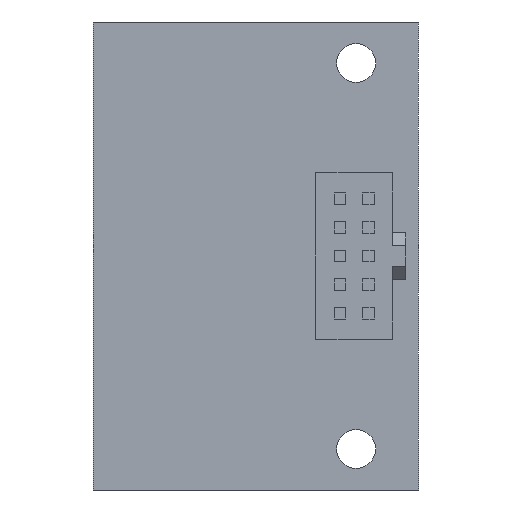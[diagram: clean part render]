
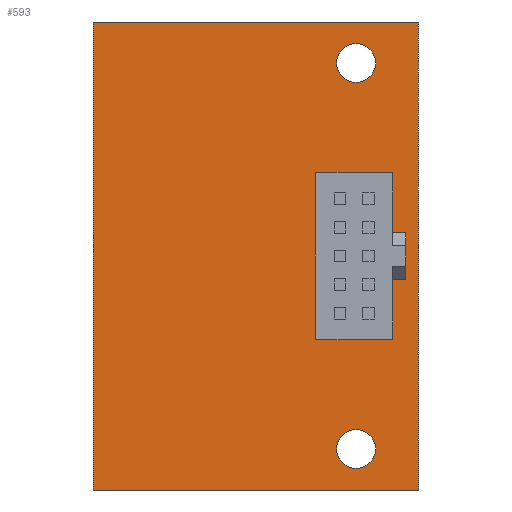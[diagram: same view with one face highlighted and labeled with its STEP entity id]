
A CAD part, left-side view. The second image highlights one B-rep face of the part: STEP entity #593.
In plain terms, the highlighted planar face has unit normal (-1, 0, 0).
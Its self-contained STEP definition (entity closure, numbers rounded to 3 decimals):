
#593=ADVANCED_FACE('',(#1348,#1350,#1352,#1354),#1356,.F.);
#1348=FACE_BOUND('',#1349,.T.);
#1349=EDGE_LOOP('',(#1899,#1900,#1901,#1902));
#1350=FACE_BOUND('',#1351,.T.);
#1351=EDGE_LOOP('',(#1903,#1904,#1905,#1906,#1907,#1908,#1909,#1910));
#1352=FACE_BOUND('',#1353,.T.);
#1353=EDGE_LOOP('',(#1911));
#1354=FACE_BOUND('',#1355,.T.);
#1355=EDGE_LOOP('',(#1912));
#1356=PLANE('',#1357);
#1357=AXIS2_PLACEMENT_3D('',#1358,#1359,#1360);
#1358=CARTESIAN_POINT('',(0.,0.,0.));
#1359=DIRECTION('',(1.,0.,0.));
#1360=DIRECTION('',(0.,1.,0.));
#1899=ORIENTED_EDGE('',*,*,#2236,.F.);
#1900=ORIENTED_EDGE('',*,*,#2237,.F.);
#1901=ORIENTED_EDGE('',*,*,#2238,.F.);
#1902=ORIENTED_EDGE('',*,*,#2239,.F.);
#1903=ORIENTED_EDGE('',*,*,#2227,.F.);
#1904=ORIENTED_EDGE('',*,*,#2225,.F.);
#1905=ORIENTED_EDGE('',*,*,#2240,.F.);
#1906=ORIENTED_EDGE('',*,*,#2219,.F.);
#1907=ORIENTED_EDGE('',*,*,#2235,.F.);
#1908=ORIENTED_EDGE('',*,*,#2233,.F.);
#1909=ORIENTED_EDGE('',*,*,#2231,.F.);
#1910=ORIENTED_EDGE('',*,*,#2229,.F.);
#1911=ORIENTED_EDGE('',*,*,#2241,.T.);
#1912=ORIENTED_EDGE('',*,*,#2242,.T.);
#2219=EDGE_CURVE('',#2546,#2548,#2549,.F.);
#2225=EDGE_CURVE('',#2556,#2558,#2559,.F.);
#2227=EDGE_CURVE('',#2558,#2561,#2562,.F.);
#2229=EDGE_CURVE('',#2561,#2564,#2565,.F.);
#2231=EDGE_CURVE('',#2564,#2567,#2568,.F.);
#2233=EDGE_CURVE('',#2567,#2570,#2571,.F.);
#2235=EDGE_CURVE('',#2570,#2546,#2573,.F.);
#2236=EDGE_CURVE('',#2574,#2575,#2576,.T.);
#2237=EDGE_CURVE('',#2577,#2574,#2578,.T.);
#2238=EDGE_CURVE('',#2579,#2577,#2580,.T.);
#2239=EDGE_CURVE('',#2575,#2579,#2581,.T.);
#2240=EDGE_CURVE('',#2548,#2556,#2582,.F.);
#2241=EDGE_CURVE('',#2583,#2583,#2584,.T.);
#2242=EDGE_CURVE('',#2585,#2585,#2586,.T.);
#2546=VERTEX_POINT('',#3206);
#2548=VERTEX_POINT('',#3210);
#2549=LINE('',#3211,#3212);
#2556=VERTEX_POINT('',#3228);
#2558=VERTEX_POINT('',#3232);
#2559=LINE('',#3233,#3234);
#2561=VERTEX_POINT('',#3239);
#2562=LINE('',#3240,#3241);
#2564=VERTEX_POINT('',#3246);
#2565=LINE('',#3247,#3248);
#2567=VERTEX_POINT('',#3253);
#2568=LINE('',#3254,#3255);
#2570=VERTEX_POINT('',#3260);
#2571=LINE('',#3261,#3262);
#2573=LINE('',#3267,#3268);
#2574=VERTEX_POINT('',#3270);
#2575=VERTEX_POINT('',#3271);
#2576=LINE('',#3272,#3273);
#2577=VERTEX_POINT('',#3275);
#2578=LINE('',#3276,#3277);
#2579=VERTEX_POINT('',#3279);
#2580=LINE('',#3280,#3281);
#2581=LINE('',#3283,#3284);
#2582=LINE('',#3286,#3287);
#2583=VERTEX_POINT('',#3289);
#2584=CIRCLE('',#3290,1.5);
#2585=VERTEX_POINT('',#3294);
#2586=CIRCLE('',#3295,1.5);
#3206=CARTESIAN_POINT('',(0.,-11.5,-1.8));
#3210=CARTESIAN_POINT('',(0.,-11.5,1.8));
#3211=CARTESIAN_POINT('',(0.,-11.5,1.8));
#3212=VECTOR('',#3213,1.);
#3213=DIRECTION('',(0.,0.,-1.));
#3228=CARTESIAN_POINT('',(0.,-10.5,1.8));
#3232=CARTESIAN_POINT('',(0.,-10.5,6.4));
#3233=CARTESIAN_POINT('',(0.,-10.5,6.4));
#3234=VECTOR('',#3235,1.);
#3235=DIRECTION('',(0.,0.,-1.));
#3239=CARTESIAN_POINT('',(0.,-4.6,6.4));
#3240=CARTESIAN_POINT('',(0.,-4.6,6.4));
#3241=VECTOR('',#3242,1.);
#3242=DIRECTION('',(0.,-1.,0.));
#3246=CARTESIAN_POINT('',(0.,-4.6,-6.4));
#3247=CARTESIAN_POINT('',(0.,-4.6,-6.4));
#3248=VECTOR('',#3249,1.);
#3249=DIRECTION('',(0.,0.,1.));
#3253=CARTESIAN_POINT('',(0.,-10.5,-6.4));
#3254=CARTESIAN_POINT('',(0.,-10.5,-6.4));
#3255=VECTOR('',#3256,1.);
#3256=DIRECTION('',(0.,1.,0.));
#3260=CARTESIAN_POINT('',(0.,-10.5,-1.8));
#3261=CARTESIAN_POINT('',(0.,-10.5,-1.8));
#3262=VECTOR('',#3263,1.);
#3263=DIRECTION('',(0.,0.,-1.));
#3267=CARTESIAN_POINT('',(0.,-11.5,-1.8));
#3268=VECTOR('',#3269,1.);
#3269=DIRECTION('',(0.,1.,0.));
#3270=CARTESIAN_POINT('',(0.,-12.5,-18.));
#3271=CARTESIAN_POINT('',(0.,12.5,-18.));
#3272=CARTESIAN_POINT('',(0.,-12.5,-18.));
#3273=VECTOR('',#3274,1.);
#3274=DIRECTION('',(0.,1.,0.));
#3275=CARTESIAN_POINT('',(0.,-12.5,18.));
#3276=CARTESIAN_POINT('',(0.,-12.5,18.));
#3277=VECTOR('',#3278,1.);
#3278=DIRECTION('',(0.,0.,-1.));
#3279=CARTESIAN_POINT('',(0.,12.5,18.));
#3280=CARTESIAN_POINT('',(0.,12.5,18.));
#3281=VECTOR('',#3282,1.);
#3282=DIRECTION('',(0.,-1.,0.));
#3283=CARTESIAN_POINT('',(0.,12.5,-18.));
#3284=VECTOR('',#3285,1.);
#3285=DIRECTION('',(0.,0.,1.));
#3286=CARTESIAN_POINT('',(0.,-10.5,1.8));
#3287=VECTOR('',#3288,1.);
#3288=DIRECTION('',(0.,-1.,0.));
#3289=CARTESIAN_POINT('',(0.,-6.2,-14.85));
#3290=AXIS2_PLACEMENT_3D('',#3291,#3292,#3293);
#3291=CARTESIAN_POINT('',(0.,-7.7,-14.85));
#3292=DIRECTION('',(1.,0.,0.));
#3293=DIRECTION('',(0.,1.,0.));
#3294=CARTESIAN_POINT('',(0.,-6.2,14.85));
#3295=AXIS2_PLACEMENT_3D('',#3296,#3297,#3298);
#3296=CARTESIAN_POINT('',(0.,-7.7,14.85));
#3297=DIRECTION('',(1.,0.,0.));
#3298=DIRECTION('',(0.,1.,0.));
